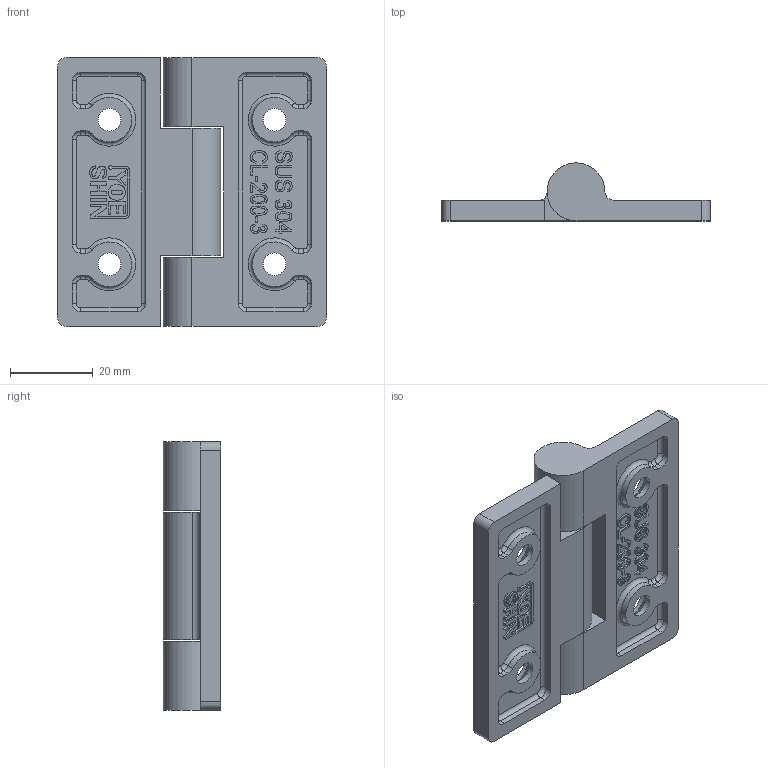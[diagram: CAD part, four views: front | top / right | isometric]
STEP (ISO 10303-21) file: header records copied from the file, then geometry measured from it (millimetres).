
FILE_DESCRIPTION(/* description */ (''),/* implementation_level */ '2;1');
FILE_NAME(/* name */ 'cl-200-3-2g.stp',/* time_stamp */ '2019-09-24T16:33:46+08:00',/* author */ (''),/* organization */ (''),/* preprocessor_version */ 'ST-DEVELOPER v16',/* originating_system */ 'SIEMENS PLM Software NX 10.0',/* authorisation */ '');
FILE_SCHEMA (('AUTOMOTIVE_DESIGN { 1 0 10303 214 3 1 1 1 }'));
Length unit declared in the file: millimetre
Products named in the file (1): Admi19102195b7f3
Bounding box: 65 x 14 x 65 mm (x, y, z)
Volume: 20298 mm3; surface area: 13980.3 mm2
Topology: 2 solids, 2 shells, 459 faces, 1231 edges, 806 vertices
Faces by surface type: bspline 208, plane 167, cylinder 76, cone 4, torus 4
Full cylindrical faces by diameter (mm): 5.5 x4, 6 x3, 10.6 x4
Entity records: 16198 total; most frequent: CARTESIAN_POINT 5993, ORIENTED_EDGE 2412, DIRECTION 1529, EDGE_CURVE 1206, VERTEX_POINT 796, LINE 649, VECTOR 649, EDGE_LOOP 514
